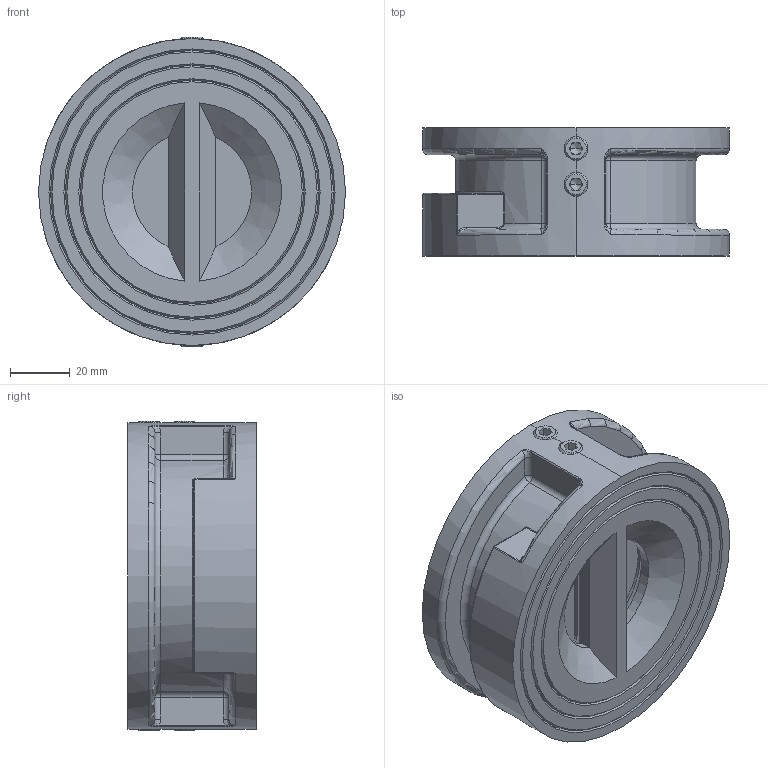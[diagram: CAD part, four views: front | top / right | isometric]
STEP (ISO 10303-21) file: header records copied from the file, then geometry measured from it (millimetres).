
FILE_DESCRIPTION (( 'STEP AP203' ), '1' );
FILE_NAME ('5306 DN50 ×°Åä.STEP', '2025-02-12T05:05:37', ( '' ), ( '' ), 'SwSTEP 2.0', 'SolidWorks 2018', '' );
FILE_SCHEMA (( 'CONFIG_CONTROL_DESIGN' ));
Length unit declared in the file: millimetre
Products named in the file (9): 50垫圈; 5306 DN50 境蝶; 50碟板垫圈; 5306 DN50 蚾饜; 50詠啣; 5306 DN50 概极; GB╱T 77-2007[内六角平端紧定螺钉M8×10]_M8×10; 50粣; 50躇猾菜
Assembly tree (18 placements, depth 2):
  5306 DN50 蚾饜
    5306 DN50 概极
    5306 DN50 境蝶
    50詠啣  x2
    50粣  x2
    50垫圈  x2
    50碟板垫圈  x2
    50躇猾菜  x4
    GB╱T 77-2007[内六角平端紧定螺钉M8×10]_M8×10  x4
Bounding box: 103 x 43 x 104 mm (x, y, z)
Volume: 202389.7 mm3; surface area: 63983 mm2
Topology: 18 solids, 18 shells, 415 faces, 962 edges, 564 vertices
Faces by surface type: plane 137, cylinder 126, cone 98, bspline 32, torus 12, sphere 10
Entity records: 10744 total; most frequent: CARTESIAN_POINT 3475, DIRECTION 1310, ORIENTED_EDGE 1236, EDGE_CURVE 618, AXIS2_PLACEMENT_3D 526, VERTEX_POINT 369, EDGE_LOOP 299, FACE_OUTER_BOUND 270
